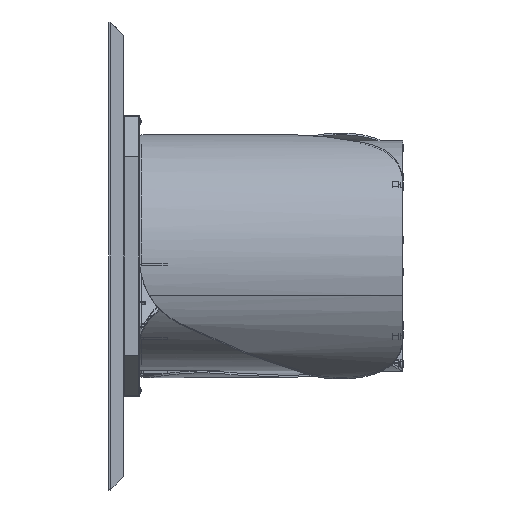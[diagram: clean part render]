
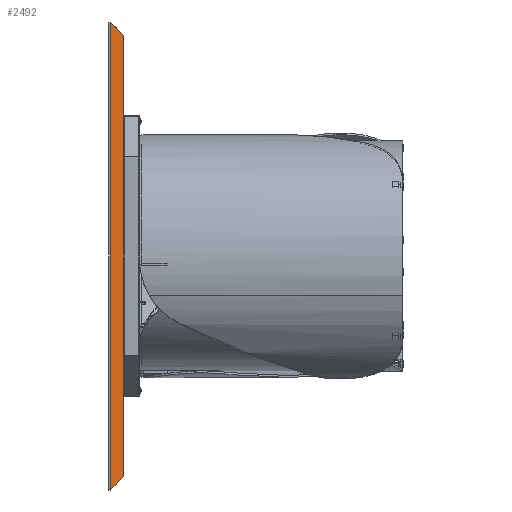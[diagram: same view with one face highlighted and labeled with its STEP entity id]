
A CAD part, left-side view. The second image highlights one B-rep face of the part: STEP entity #2492.
In plain terms, the highlighted planar face has unit normal (-0.707, -0.707, 0).
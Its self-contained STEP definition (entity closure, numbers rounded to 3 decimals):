
#233 = VERTEX_POINT ( 'NONE', #4496 ) ;
#628 = VECTOR ( 'NONE', #4388, 1000. ) ;
#774 = ORIENTED_EDGE ( 'NONE', *, *, #7256, .T. ) ;
#932 = CARTESIAN_POINT ( 'NONE',  ( -1499.486, 34.486, 597.585 ) ) ;
#2010 = LINE ( 'NONE', #9861, #24955 ) ;
#2482 = CARTESIAN_POINT ( 'NONE',  ( -1500., 35., -600. ) ) ;
#2492 = ADVANCED_FACE ( 'NONE', ( #7090 ), #13292, .F. ) ;
#2494 = CARTESIAN_POINT ( 'NONE',  ( -1498.536, 33.536, -598.536 ) ) ;
#2545 = CARTESIAN_POINT ( 'NONE',  ( -1498.536, 33.536, 598.536 ) ) ;
#2566 = VERTEX_POINT ( 'NONE', #20656 ) ;
#2916 = CARTESIAN_POINT ( 'NONE',  ( -1500., 35., -600. ) ) ;
#3568 = VERTEX_POINT ( 'NONE', #2545 ) ;
#4037 = ORIENTED_EDGE ( 'NONE', *, *, #20119, .T. ) ;
#4290 = DIRECTION ( 'NONE',  ( 0., 0., 1. ) ) ;
#4388 = DIRECTION ( 'NONE',  ( 0., 0., 1. ) ) ;
#4496 = CARTESIAN_POINT ( 'NONE',  ( -1500., 35., 595. ) ) ;
#6580 = CARTESIAN_POINT ( 'NONE',  ( -1500., 35., 595. ) ) ;
#7090 = FACE_OUTER_BOUND ( 'NONE', #14791, .T. ) ;
#7256 = EDGE_CURVE ( 'NONE', #9478, #2566, #13601, .T. ) ;
#7341 = DIRECTION ( 'NONE',  ( 0.707, 0.707, 0. ) ) ;
#8286 = EDGE_CURVE ( 'NONE', #3568, #9758, #2010, .T. ) ;
#9436 = VERTEX_POINT ( 'NONE', #21682 ) ;
#9478 = VERTEX_POINT ( 'NONE', #14077 ) ;
#9758 = VERTEX_POINT ( 'NONE', #19730 ) ;
#9861 = CARTESIAN_POINT ( 'NONE',  ( -1100., -365., 200. ) ) ;
#11897 = LINE ( 'NONE', #17853, #23283 ) ;
#12060 = LINE ( 'NONE', #2916, #16960 ) ;
#12471 = CARTESIAN_POINT ( 'NONE',  ( -1498.536, 33.536, 598.536 ) ) ;
#12502 = CARTESIAN_POINT ( 'NONE',  ( -1500., 35., -595. ) ) ;
#12915 = CARTESIAN_POINT ( 'NONE',  ( -1500., 35., -600. ) ) ;
#13292 = PLANE ( 'NONE',  #24949 ) ;
#13601 =( BOUNDED_CURVE ( )  B_SPLINE_CURVE ( 3, ( #12502, #16433, #20353, #2494 ),
 .UNSPECIFIED., .F., .F. ) 
 B_SPLINE_CURVE_WITH_KNOTS ( ( 4, 4 ),
 ( 3.142, 3.927 ),
 .UNSPECIFIED. ) 
 CURVE ( )  GEOMETRIC_REPRESENTATION_ITEM ( )  RATIONAL_B_SPLINE_CURVE ( ( 1., 0.949, 0.949, 1. ) ) 
 REPRESENTATION_ITEM ( '' )  );
#14077 = CARTESIAN_POINT ( 'NONE',  ( -1500., 35., -595. ) ) ;
#14322 = DIRECTION ( 'NONE',  ( 0.577, -0.577, 0.577 ) ) ;
#14791 = EDGE_LOOP ( 'NONE', ( #18489, #15454, #23641, #4037, #18756, #774 ) ) ;
#15454 = ORIENTED_EDGE ( 'NONE', *, *, #20626, .T. ) ;
#16433 = CARTESIAN_POINT ( 'NONE',  ( -1500., 35., -596.344 ) ) ;
#16960 = VECTOR ( 'NONE', #14322, 1000. ) ;
#17103 = DIRECTION ( 'NONE',  ( 0., 0., 1. ) ) ;
#17853 = CARTESIAN_POINT ( 'NONE',  ( -1465.293, 0.293, 565. ) ) ;
#18130 = CARTESIAN_POINT ( 'NONE',  ( -1500., 35., 596.344 ) ) ;
#18489 = ORIENTED_EDGE ( 'NONE', *, *, #24771, .T. ) ;
#18756 = ORIENTED_EDGE ( 'NONE', *, *, #21186, .F. ) ;
#19730 = CARTESIAN_POINT ( 'NONE',  ( -1465.293, 0.293, 565.293 ) ) ;
#19865 = DIRECTION ( 'NONE',  ( 0.577, -0.577, -0.577 ) ) ;
#20119 = EDGE_CURVE ( 'NONE', #3568, #233, #24250, .T. ) ;
#20353 = CARTESIAN_POINT ( 'NONE',  ( -1499.486, 34.486, -597.585 ) ) ;
#20626 = EDGE_CURVE ( 'NONE', #9436, #9758, #11897, .T. ) ;
#20656 = CARTESIAN_POINT ( 'NONE',  ( -1498.536, 33.536, -598.536 ) ) ;
#21186 = EDGE_CURVE ( 'NONE', #9478, #233, #23877, .T. ) ;
#21682 = CARTESIAN_POINT ( 'NONE',  ( -1465.293, 0.293, -565.293 ) ) ;
#23283 = VECTOR ( 'NONE', #4290, 1000. ) ;
#23641 = ORIENTED_EDGE ( 'NONE', *, *, #8286, .F. ) ;
#23877 = LINE ( 'NONE', #2482, #628 ) ;
#24250 =( BOUNDED_CURVE ( )  B_SPLINE_CURVE ( 3, ( #12471, #932, #18130, #6580 ),
 .UNSPECIFIED., .F., .F. ) 
 B_SPLINE_CURVE_WITH_KNOTS ( ( 4, 4 ),
 ( 2.356, 3.142 ),
 .UNSPECIFIED. ) 
 CURVE ( )  GEOMETRIC_REPRESENTATION_ITEM ( )  RATIONAL_B_SPLINE_CURVE ( ( 1., 0.949, 0.949, 1. ) ) 
 REPRESENTATION_ITEM ( '' )  );
#24771 = EDGE_CURVE ( 'NONE', #2566, #9436, #12060, .T. ) ;
#24949 = AXIS2_PLACEMENT_3D ( 'NONE', #12915, #7341, #17103 ) ;
#24955 = VECTOR ( 'NONE', #19865, 1000. ) ;
